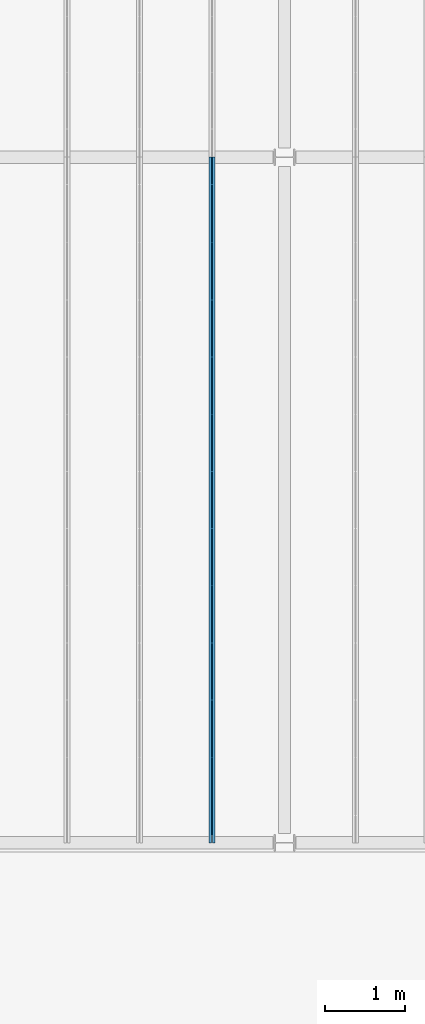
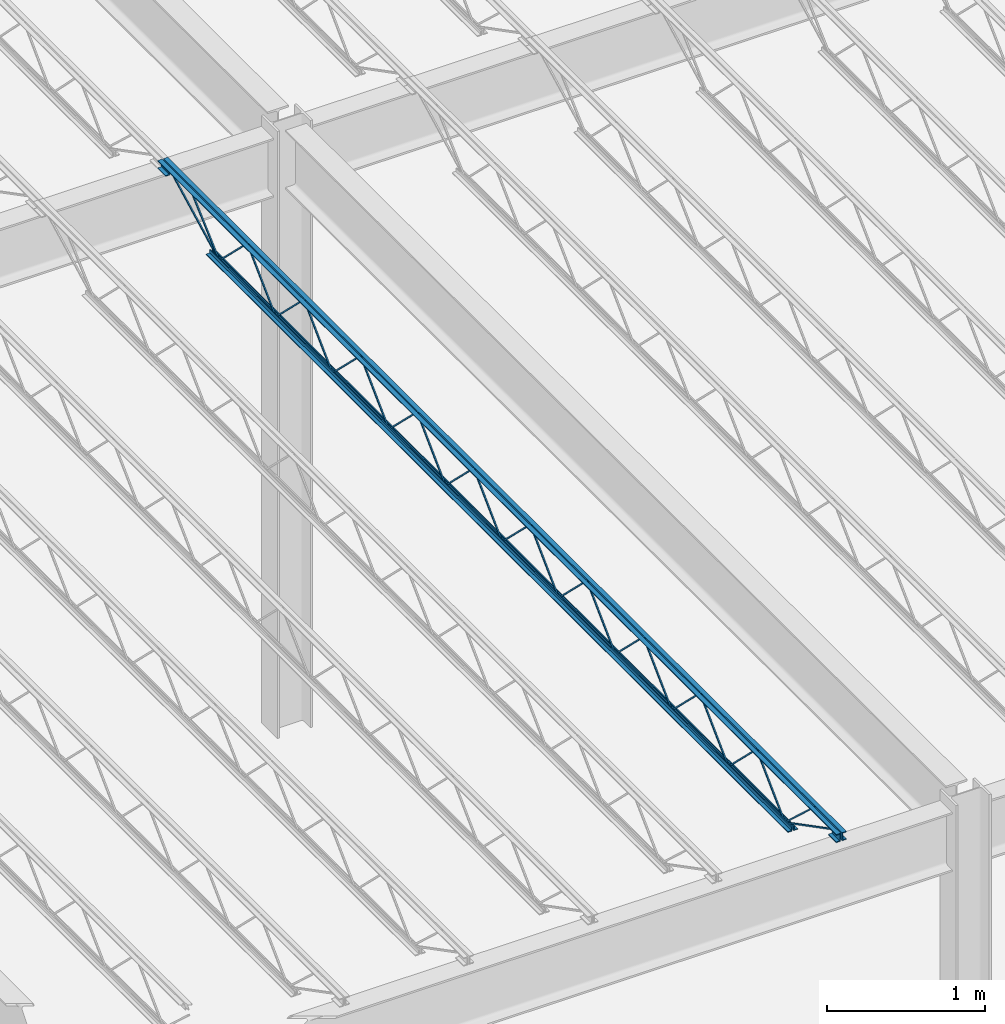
# One storey, part 25 of 119: 1 beam.
"""IFC2X3 building model written with IfcOpenShell, lengths in metres."""

from ifc_helpers import new_model, entity, si_unit, converted_unit, frame, origin, place, context, project, spatial, face_set, surface_model, element, save


model = new_model("IFC2X3")

# Units and contexts
model_context = context("Model", 3, precision=1e-09, world=origin())
plan_context = context("Plan", 3, precision=1e-09, world=origin())
ifc_project = project(units=[si_unit("LENGTHUNIT", "METRE"), si_unit("AREAUNIT", "SQUARE_METRE"), si_unit("VOLUMEUNIT", "CUBIC_METRE"), converted_unit("PLANEANGLEUNIT", "DEGREE", entity("IfcRatioMeasure", 0.01745329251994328), si_unit("PLANEANGLEUNIT", "RADIAN"), dimensions=[0, 0, 0, 0, 0, 0, 0]), si_unit("TIMEUNIT", "SECOND")], contexts=[model_context, plan_context])

# Site, building, storey
site_placement = place(None, origin())
site = spatial("IfcSite", under=ifc_project, at=site_placement, Name="Default", CompositionType="ELEMENT")
building_placement = place(site_placement, origin())
building = spatial("IfcBuilding", under=site, at=building_placement, CompositionType="ELEMENT")
storey_placement = place(building_placement, frame((0.0, 0.0, 4.570000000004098)))
storey = spatial("IfcBuildingStorey", under=building, at=storey_placement, Name="Second Floor", CompositionType="ELEMENT", Elevation=4.570000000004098)

# Beam
beam_placement = place(storey_placement, frame((-41.60246428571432, 10.04000000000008, 4.323999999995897), z_axis=(0.0, 0.0, 1.0), x_axis=(-1.0, 0.0, 0.0)))
element("IfcBeam", 1, at=beam_placement, inside=storey, Name="M_K-Series Bar Joist-Rod Web:14K1:14K1", ObjectType="M_K-Series Bar Joist-Rod Web:14K1", context=model_context, shape_type="SurfaceModel", body=[
    surface_model("IfcFaceBasedSurfaceModel", [(-0.03199999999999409, -2.141200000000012, 0.01110000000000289), (-0.04150000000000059, -2.141200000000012, 0.01110000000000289), (-0.04150000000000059, -2.141200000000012, 0.001600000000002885), (-0.03199999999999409, -2.141200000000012, 0.001600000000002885), (-0.04149999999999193, -2.139961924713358, 0.01110000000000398), (-0.03199999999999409, -2.139961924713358, 0.01110000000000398), (-0.0415000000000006, -2.136088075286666, 0.001600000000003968), (-0.04150000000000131, -1.785138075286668, 0.3449000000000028), (-0.04150000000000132, -1.782661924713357, 0.3449000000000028), (-0.04150000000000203, -1.431711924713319, 0.001600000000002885), (-0.04150000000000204, -1.426600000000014, 0.001600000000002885), (-0.04150000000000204, -1.426600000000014, 0.01110000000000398), (-0.04150000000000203, -1.427838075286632, 0.01110000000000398), (-0.04150000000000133, -1.77878807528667, 0.3544000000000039), (-0.0415000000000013, -1.78901192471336, 0.3544000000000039), (-0.03200000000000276, -2.136088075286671, 0.001600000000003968), (-0.0319999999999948, -1.785138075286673, 0.3449000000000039), (-0.03199999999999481, -1.782661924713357, 0.3449000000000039), (-0.03199999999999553, -1.431711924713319, 0.001600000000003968), (-0.03199999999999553, -1.426600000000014, 0.001600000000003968), (-0.03199999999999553, -1.426600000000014, 0.01110000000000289), (-0.03199999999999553, -1.427838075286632, 0.01110000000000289), (-0.03199999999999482, -1.77878807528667, 0.3544000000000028), (-0.0319999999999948, -1.78901192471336, 0.3544000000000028), (-0.03200000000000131, -2.855800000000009, 0.01110000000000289), (-0.04150000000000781, -2.855800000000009, 0.01110000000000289), (-0.04150000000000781, -2.855800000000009, 0.001600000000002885), (-0.03200000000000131, -2.855800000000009, 0.001600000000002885), (-0.04149999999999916, -2.854561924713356, 0.01110000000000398), (-0.03200000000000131, -2.854561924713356, 0.01110000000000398), (-0.04150000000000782, -2.850688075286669, 0.001600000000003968), (-0.04150000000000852, -2.499738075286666, 0.3449000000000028), (-0.04150000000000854, -2.49726192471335, 0.3449000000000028), (-0.04150000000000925, -2.146311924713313, 0.001600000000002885), (-0.04150000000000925, -2.141200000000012, 0.01110000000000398), (-0.04150000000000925, -2.142438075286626, 0.01110000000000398), (-0.04150000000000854, -2.493388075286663, 0.3544000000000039), (-0.04150000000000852, -2.503611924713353, 0.3544000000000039), (-0.03200000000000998, -2.850688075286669, 0.001600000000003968), (-0.03200000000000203, -2.499738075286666, 0.3449000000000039), (-0.03200000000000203, -2.49726192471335, 0.3449000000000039), (-0.03200000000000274, -2.146311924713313, 0.001600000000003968), (-0.03200000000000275, -2.141200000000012, 0.001600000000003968), (-0.03199999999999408, -2.142438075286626, 0.01110000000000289), (-0.03200000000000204, -2.493388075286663, 0.3544000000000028), (-0.03200000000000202, -2.503611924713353, 0.3544000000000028), (-0.03199999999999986, -3.570400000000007, 0.01110000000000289), (-0.04150000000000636, -3.570400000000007, 0.01110000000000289), (-0.04150000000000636, -3.570400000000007, 0.001600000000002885), (-0.03199999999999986, -3.570400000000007, 0.001600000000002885), (-0.04149999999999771, -3.569161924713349, 0.01110000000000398), (-0.03199999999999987, -3.569161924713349, 0.01110000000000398), (-0.04150000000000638, -3.565288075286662, 0.001600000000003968), (-0.04150000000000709, -3.214338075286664, 0.3449000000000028), (-0.04150000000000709, -3.211861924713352, 0.3449000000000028), (-0.0415000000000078, -2.860911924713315, 0.001600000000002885), (-0.04150000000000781, -2.855800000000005, 0.001600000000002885), (-0.04150000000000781, -2.855800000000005, 0.01110000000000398), (-0.04150000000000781, -2.857038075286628, 0.01110000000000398), (-0.04150000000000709, -3.207988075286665, 0.3544000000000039), (-0.04150000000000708, -3.218211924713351, 0.3544000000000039), (-0.03200000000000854, -3.565288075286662, 0.001600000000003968), (-0.03200000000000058, -3.214338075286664, 0.3449000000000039), (-0.03200000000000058, -3.211861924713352, 0.3449000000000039), (-0.0320000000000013, -2.860911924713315, 0.001600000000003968), (-0.03200000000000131, -2.855800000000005, 0.001600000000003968), (-0.03200000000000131, -2.855800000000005, 0.01110000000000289), (-0.03200000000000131, -2.857038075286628, 0.01110000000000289), (-0.03200000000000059, -3.207988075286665, 0.3544000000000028), (-0.03200000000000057, -3.218211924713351, 0.3544000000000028), (-0.03199999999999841, -4.285000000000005, 0.01110000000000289), (-0.04150000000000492, -4.285000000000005, 0.01110000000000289), (-0.04150000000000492, -4.285000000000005, 0.001600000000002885), (-0.03199999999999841, -4.285000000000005, 0.001600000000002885), (-0.04149999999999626, -4.283761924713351, 0.01110000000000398), (-0.03199999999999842, -4.283761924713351, 0.01110000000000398), (-0.04150000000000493, -4.27988807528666, 0.001600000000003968), (-0.04150000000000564, -3.928938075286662, 0.3449000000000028), (-0.04150000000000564, -3.926461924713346, 0.3449000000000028), (-0.04150000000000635, -3.575511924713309, 0.001600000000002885), (-0.04150000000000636, -3.570400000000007, 0.01110000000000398), (-0.04150000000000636, -3.571638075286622, 0.01110000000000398), (-0.04150000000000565, -3.922588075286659, 0.3544000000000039), (-0.04150000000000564, -3.932811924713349, 0.3544000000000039), (-0.03200000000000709, -4.279888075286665, 0.001600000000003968), (-0.03199999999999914, -3.928938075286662, 0.3449000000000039), (-0.03199999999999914, -3.926461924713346, 0.3449000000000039), (-0.03199999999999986, -3.575511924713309, 0.001600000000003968), (-0.03199999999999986, -3.570400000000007, 0.001600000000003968), (-0.03199999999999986, -3.571638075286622, 0.01110000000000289), (-0.03199999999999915, -3.922588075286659, 0.3544000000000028), (-0.03199999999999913, -3.932811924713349, 0.3544000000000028), (-0.03199999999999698, -4.999600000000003, 0.01110000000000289), (-0.04150000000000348, -4.999600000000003, 0.01110000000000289), (-0.04150000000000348, -4.999600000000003, 0.001600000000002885), (-0.03199999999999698, -4.999600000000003, 0.001600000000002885), (-0.04149999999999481, -4.998361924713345, 0.01110000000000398), (-0.03199999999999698, -4.998361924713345, 0.01110000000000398), (-0.04150000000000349, -4.994488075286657, 0.001600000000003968), (-0.04150000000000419, -4.643538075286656, 0.3449000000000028), (-0.0415000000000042, -4.641061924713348, 0.3449000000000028), (-0.04150000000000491, -4.290111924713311, 0.001600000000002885), (-0.04150000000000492, -4.285, 0.001600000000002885), (-0.04150000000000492, -4.285, 0.01110000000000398), (-0.04150000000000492, -4.28623807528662, 0.01110000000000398), (-0.04150000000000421, -4.637188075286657, 0.3544000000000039), (-0.04150000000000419, -4.647411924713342, 0.3544000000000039), (-0.03200000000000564, -4.994488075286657, 0.001600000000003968), (-0.03199999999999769, -4.643538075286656, 0.3449000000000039), (-0.0319999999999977, -4.641061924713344, 0.3449000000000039), (-0.03199999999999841, -4.290111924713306, 0.001600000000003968), (-0.03199999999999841, -4.285, 0.001600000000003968), (-0.03199999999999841, -4.285, 0.01110000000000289), (-0.03199999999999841, -4.286238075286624, 0.01110000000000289), (-0.0319999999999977, -4.637188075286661, 0.3544000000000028), (-0.03199999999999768, -4.647411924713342, 0.3544000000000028), (-0.03199999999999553, -5.714199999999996, 0.01110000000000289), (-0.04150000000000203, -5.714199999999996, 0.01110000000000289), (-0.04150000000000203, -5.714199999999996, 0.001600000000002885), (-0.03199999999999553, -5.714199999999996, 0.001600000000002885), (-0.04149999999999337, -5.712961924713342, 0.01110000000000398), (-0.03199999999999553, -5.712961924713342, 0.01110000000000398), (-0.04150000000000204, -5.709088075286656, 0.001600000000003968), (-0.04150000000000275, -5.358138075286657, 0.3449000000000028), (-0.04150000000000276, -5.355661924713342, 0.3449000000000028), (-0.04150000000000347, -5.004711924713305, 0.001600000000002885), (-0.04150000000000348, -4.999599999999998, 0.01110000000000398), (-0.04150000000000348, -5.000838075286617, 0.01110000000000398), (-0.04150000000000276, -5.351788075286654, 0.3544000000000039), (-0.04150000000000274, -5.362011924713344, 0.3544000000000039), (-0.0320000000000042, -5.709088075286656, 0.001600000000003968), (-0.03199999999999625, -5.358138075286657, 0.3449000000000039), (-0.03199999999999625, -5.355661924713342, 0.3449000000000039), (-0.03199999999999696, -5.004711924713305, 0.001600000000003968), (-0.03199999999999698, -4.999599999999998, 0.001600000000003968), (-0.03199999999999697, -5.000838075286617, 0.01110000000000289), (-0.03199999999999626, -5.351788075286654, 0.3544000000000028), (-0.03199999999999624, -5.362011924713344, 0.3544000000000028), (-0.03200000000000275, -6.428799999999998, 0.01110000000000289), (-0.04150000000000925, -6.428799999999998, 0.01110000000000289), (-0.04150000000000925, -6.428799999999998, 0.001600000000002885), (-0.03200000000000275, -6.428799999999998, 0.001600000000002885), (-0.04150000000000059, -6.42756192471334, 0.01110000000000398), (-0.03200000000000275, -6.42756192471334, 0.01110000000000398), (-0.0415000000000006, -6.423688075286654, 0.001600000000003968), (-0.0415000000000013, -6.072738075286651, 0.3449000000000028), (-0.04150000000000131, -6.070261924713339, 0.3449000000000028), (-0.04150000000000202, -5.719311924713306, 0.001600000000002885), (-0.0415000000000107, -5.714199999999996, 0.01110000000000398), (-0.0415000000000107, -5.715438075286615, 0.01110000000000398), (-0.04150000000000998, -6.066388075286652, 0.3544000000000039), (-0.04150000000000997, -6.076611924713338, 0.3544000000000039), (-0.03200000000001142, -6.423688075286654, 0.001600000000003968), (-0.03200000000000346, -6.072738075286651, 0.3449000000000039), (-0.03200000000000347, -6.070261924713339, 0.3449000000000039), (-0.03200000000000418, -5.719311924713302, 0.001600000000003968), (-0.03200000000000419, -5.714199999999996, 0.001600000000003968), (-0.03199999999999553, -5.715438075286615, 0.01110000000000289), (-0.03199999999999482, -6.066388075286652, 0.3544000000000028), (-0.0319999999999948, -6.076611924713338, 0.3544000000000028), (-0.0320000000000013, -7.143399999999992, 0.01110000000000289), (-0.04150000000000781, -7.143399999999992, 0.01110000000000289), (-0.04150000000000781, -7.143399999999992, 0.001600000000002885), (-0.0320000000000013, -7.143399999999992, 0.001600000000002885), (-0.04149999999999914, -7.142161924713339, 0.01110000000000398), (-0.03200000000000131, -7.142161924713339, 0.01110000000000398), (-0.04150000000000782, -7.138288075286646, 0.001600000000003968), (-0.04150000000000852, -6.787338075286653, 0.3449000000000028), (-0.04150000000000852, -6.784861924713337, 0.3449000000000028), (-0.04150000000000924, -6.4339119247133, 0.001600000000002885), (-0.04150000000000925, -6.428799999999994, 0.001600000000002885), (-0.04150000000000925, -6.428799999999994, 0.01110000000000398), (-0.04150000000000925, -6.430038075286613, 0.01110000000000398), (-0.04150000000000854, -6.780988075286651, 0.3544000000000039), (-0.04150000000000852, -6.79121192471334, 0.3544000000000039), (-0.03200000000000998, -7.138288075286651, 0.001600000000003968), (-0.03200000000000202, -6.787338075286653, 0.3449000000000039), (-0.03200000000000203, -6.784861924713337, 0.3449000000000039), (-0.03200000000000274, -6.4339119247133, 0.001600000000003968), (-0.03200000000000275, -6.428799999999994, 0.001600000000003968), (-0.03200000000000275, -6.428799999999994, 0.01110000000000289), (-0.03200000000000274, -6.430038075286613, 0.01110000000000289), (-0.03200000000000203, -6.780988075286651, 0.3544000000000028), (-0.03200000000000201, -6.79121192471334, 0.3544000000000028), (-0.03199999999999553, -1.426600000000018, 0.01109999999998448), (-0.04150000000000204, -1.426600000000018, 0.01109999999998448), (-0.04150000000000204, -1.426600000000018, 0.001599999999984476), (-0.03199999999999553, -1.426600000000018, 0.001599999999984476), (-0.04149999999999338, -1.42536192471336, 0.01109999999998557), (-0.03199999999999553, -1.42536192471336, 0.01109999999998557), (-0.04149999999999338, -1.421488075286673, 0.001599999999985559), (-0.0414999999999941, -1.07053807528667, 0.3448999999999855), (-0.0414999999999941, -1.068061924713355, 0.3448999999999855), (-0.04149999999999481, -0.7171119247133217, 0.001599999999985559), (-0.04150000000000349, -0.7120000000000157, 0.001599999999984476), (-0.04149999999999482, -0.7120000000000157, 0.01109999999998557), (-0.04149999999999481, -0.7132380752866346, 0.01109999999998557), (-0.0414999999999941, -1.064188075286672, 0.3543999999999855), (-0.04149999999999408, -1.074411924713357, 0.3543999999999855), (-0.03199999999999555, -1.421488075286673, 0.001599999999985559), (-0.03199999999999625, -1.07053807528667, 0.3448999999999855), (-0.03199999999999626, -1.068061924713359, 0.3448999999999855), (-0.03199999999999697, -0.7171119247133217, 0.001599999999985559), (-0.03199999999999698, -0.7120000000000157, 0.001599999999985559), (-0.03199999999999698, -0.7120000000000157, 0.01109999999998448), (-0.03199999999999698, -0.7132380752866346, 0.01109999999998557), (-0.03199999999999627, -1.064188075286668, 0.3543999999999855), (-0.03199999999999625, -1.074411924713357, 0.3543999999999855), (-0.03199999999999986, -7.857999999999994, 0.01110000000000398), (-0.04150000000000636, -7.857999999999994, 0.01110000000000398), (-0.04150000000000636, -7.857999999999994, 0.001600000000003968), (-0.03199999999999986, -7.857999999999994, 0.001600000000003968), (-0.0414999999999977, -7.856761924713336, 0.01110000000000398), (-0.03199999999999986, -7.856761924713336, 0.01110000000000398), (-0.04150000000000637, -7.852888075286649, 0.001600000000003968), (-0.04150000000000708, -7.501938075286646, 0.3449000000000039), (-0.04150000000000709, -7.499461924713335, 0.3449000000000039), (-0.04150000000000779, -7.148511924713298, 0.001600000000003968), (-0.04150000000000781, -7.143399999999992, 0.001600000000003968), (-0.04150000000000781, -7.143399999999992, 0.01110000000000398), (-0.0415000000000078, -7.14463807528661, 0.01110000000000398), (-0.04150000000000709, -7.495588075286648, 0.3544000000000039), (-0.04150000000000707, -7.505811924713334, 0.3544000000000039), (-0.03200000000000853, -7.852888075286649, 0.001600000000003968), (-0.03200000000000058, -7.501938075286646, 0.3449000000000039), (-0.03200000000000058, -7.499461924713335, 0.3449000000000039), (-0.03200000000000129, -7.148511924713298, 0.001600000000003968), (-0.0320000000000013, -7.143399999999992, 0.001600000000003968), (-0.0320000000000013, -7.143399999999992, 0.01110000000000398), (-0.0320000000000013, -7.14463807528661, 0.01110000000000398), (-0.03200000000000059, -7.495588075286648, 0.3544000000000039), (-0.03200000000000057, -7.505811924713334, 0.3544000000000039), (-0.04150000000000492, 0.0, 0.3559999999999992), (-0.07350000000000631, 0.0, 0.3559999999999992), (-0.07350000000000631, 0.0, 0.3494999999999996), (-0.04800000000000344, 0.0, 0.3494999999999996), (-0.04800000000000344, 0.0, 0.3239999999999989), (-0.04150000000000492, 0.0, 0.3239999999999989), (-0.03200000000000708, 0.0, 0.3559999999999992), (-0.03200000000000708, 0.0, 0.3239999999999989), (-0.02550000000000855, 0.0, 0.3239999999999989), (-0.02550000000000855, 0.0, 0.3494999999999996), (0.0, 0.0, 0.3494999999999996), (0.0, 0.0, 0.3559999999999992), (-0.04150000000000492, -8.569999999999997, 0.3559999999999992), (-0.07350000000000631, -8.569999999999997, 0.3559999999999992), (-0.07350000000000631, -8.569999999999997, 0.3494999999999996), (-0.04800000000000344, -8.569999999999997, 0.3494999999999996), (-0.04800000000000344, -8.569999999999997, 0.3239999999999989), (-0.04150000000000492, -8.569999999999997, 0.3239999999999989), (-0.03200000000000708, -8.569999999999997, 0.3559999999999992), (-0.03200000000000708, -8.569999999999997, 0.3239999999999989), (-0.02550000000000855, -8.569999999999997, 0.3239999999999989), (-0.02550000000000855, -8.569999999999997, 0.3494999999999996), (0.0, -8.569999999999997, 0.3494999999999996), (0.0, -8.569999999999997, 0.3559999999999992), (-0.03199999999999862, -8.470000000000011, 0.2924999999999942), (0.0, -8.470000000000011, 0.2924999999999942), (0.0, -8.470000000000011, 0.2989999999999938), (-0.0255000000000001, -8.470000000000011, 0.2989999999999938), (-0.0255000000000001, -8.470000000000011, 0.3239999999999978), (-0.03199999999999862, -8.470000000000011, 0.3239999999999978), (-0.07349999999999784, -8.470000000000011, 0.2924999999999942), (-0.04149999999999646, -8.470000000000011, 0.2924999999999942), (-0.04149999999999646, -8.470000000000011, 0.3239999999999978), (-0.04799999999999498, -8.470000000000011, 0.3239999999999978), (-0.04799999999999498, -8.470000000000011, 0.2989999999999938), (-0.07349999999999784, -8.470000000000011, 0.2989999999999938), (-0.03199999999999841, -8.569999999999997, 0.2924999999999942), (0.0, -8.569999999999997, 0.2924999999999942), (0.0, -8.569999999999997, 0.2989999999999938), (-0.02549999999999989, -8.569999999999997, 0.2989999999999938), (-0.02549999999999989, -8.569999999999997, 0.3239999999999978), (-0.03199999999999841, -8.569999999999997, 0.3239999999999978), (-0.07349999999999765, -8.569999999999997, 0.2924999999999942), (-0.04149999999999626, -8.569999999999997, 0.2924999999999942), (-0.04149999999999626, -8.569999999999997, 0.3239999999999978), (-0.04799999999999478, -8.569999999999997, 0.3239999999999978), (-0.04799999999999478, -8.569999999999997, 0.2989999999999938), (-0.07349999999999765, -8.569999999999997, 0.2989999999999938), (-0.04149999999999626, 0.0, 0.2924999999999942), (-0.04149999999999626, 0.0, 0.3239999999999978), (-0.04799999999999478, 0.0, 0.3239999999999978), (-0.04799999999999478, 0.0, 0.2989999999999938), (-0.07349999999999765, 0.0, 0.2989999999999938), (-0.07349999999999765, 0.0, 0.2924999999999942), (-0.03199999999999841, 0.0, 0.2924999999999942), (0.0, 0.0, 0.2924999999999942), (0.0, 0.0, 0.2989999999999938), (-0.02549999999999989, 0.0, 0.2989999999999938), (-0.02549999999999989, 0.0, 0.3239999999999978), (-0.03199999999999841, 0.0, 0.3239999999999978), (-0.04149999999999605, -0.09999999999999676, 0.2924999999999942), (-0.04149999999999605, -0.09999999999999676, 0.3239999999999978), (-0.04799999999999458, -0.09999999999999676, 0.3239999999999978), (-0.04799999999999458, -0.09999999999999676, 0.2989999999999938), (-0.07349999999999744, -0.09999999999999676, 0.2989999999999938), (-0.07349999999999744, -0.09999999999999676, 0.2924999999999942), (-0.03199999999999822, -0.09999999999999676, 0.2924999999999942), (0.0, -0.09999999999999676, 0.2924999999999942), (0.0, -0.09999999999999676, 0.2989999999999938), (-0.02549999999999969, -0.09999999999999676, 0.2989999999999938), (-0.02549999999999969, -0.09999999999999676, 0.3239999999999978), (-0.03199999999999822, -0.09999999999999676, 0.3239999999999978), (-0.04150000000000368, -0.6119999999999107, 0.0), (-0.04150000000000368, -0.6119999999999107, 0.03199999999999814), (-0.0480000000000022, -0.6119999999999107, 0.03199999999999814), (-0.0480000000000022, -0.6119999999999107, 0.006499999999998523), (-0.07350000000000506, -0.6119999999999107, 0.006499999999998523), (-0.07350000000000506, -0.6119999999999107, 0.0), (-0.03200000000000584, -0.6119999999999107, 0.0), (0.0, -0.6119999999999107, 0.0), (0.0, -0.6119999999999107, 0.006499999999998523), (-0.02550000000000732, -0.6119999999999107, 0.006499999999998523), (-0.02550000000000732, -0.6119999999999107, 0.03199999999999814), (-0.03200000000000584, -0.6119999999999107, 0.03199999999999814), (-0.04150000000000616, -7.95799999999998, 0.0), (-0.04150000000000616, -7.95799999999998, 0.03199999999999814), (-0.04800000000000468, -7.95799999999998, 0.03199999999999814), (-0.04800000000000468, -7.95799999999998, 0.006499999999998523), (-0.07350000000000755, -7.95799999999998, 0.006499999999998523), (-0.07350000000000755, -7.95799999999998, 0.0), (-0.03200000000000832, -7.95799999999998, 0.0), (0.0, -7.95799999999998, 0.0), (0.0, -7.95799999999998, 0.006499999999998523), (-0.0255000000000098, -7.95799999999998, 0.006499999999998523), (-0.0255000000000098, -7.95799999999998, 0.03199999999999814), (-0.03200000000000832, -7.95799999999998, 0.03199999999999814), (-0.03199999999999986, -7.855811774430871, 0.01056594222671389), (-0.04150000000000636, -7.855811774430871, 0.01056594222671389), (-0.04150000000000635, -7.860188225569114, 0.002134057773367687), (-0.03199999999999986, -7.860188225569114, 0.00213405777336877), (-0.03199999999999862, -8.468840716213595, 0.3287499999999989), (-0.03199999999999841, -8.569999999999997, 0.3287499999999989), (-0.03199999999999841, -8.569999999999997, 0.3192499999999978), (-0.03199999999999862, -8.471159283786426, 0.3192499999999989), (-0.04149999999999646, -8.471159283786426, 0.3192499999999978), (-0.04150000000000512, -8.468840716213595, 0.3287499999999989), (-0.04150000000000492, -8.569999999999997, 0.3287499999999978), (-0.04150000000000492, -8.569999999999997, 0.3192499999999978), (-0.03199999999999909, -8.235257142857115, 0.3417000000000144), (-0.0415000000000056, -8.235257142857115, 0.3417000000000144), (-0.0415000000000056, -8.235257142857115, 0.3322000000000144), (-0.03199999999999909, -8.235257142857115, 0.3322000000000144), (-0.04149999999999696, -8.22072410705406, 0.3417000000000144), (-0.03199999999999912, -8.22072410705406, 0.3417000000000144), (-0.04150000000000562, -8.224390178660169, 0.3322000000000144), (-0.04150000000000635, -7.861190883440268, 0.002831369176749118), (-0.04150000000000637, -7.854809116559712, 0.009868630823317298), (-0.03200000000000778, -8.224390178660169, 0.3322000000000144), (-0.03199999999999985, -7.861190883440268, 0.002831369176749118), (-0.03199999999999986, -7.854809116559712, 0.009868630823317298), (-0.03199999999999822, -0.0978117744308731, 0.3197840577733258), (-0.03199999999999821, -0.1021882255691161, 0.328215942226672), (-0.04150000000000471, -0.1021882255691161, 0.328215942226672), (-0.04150000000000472, -0.0978117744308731, 0.3197840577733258), (-0.03199999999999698, -0.7098117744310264, 0.002134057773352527), (-0.03199999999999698, -0.7141882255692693, 0.01056594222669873), (-0.04150000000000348, -0.7141882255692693, 0.01056594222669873), (-0.04150000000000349, -0.7098117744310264, 0.002134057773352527), (-0.03199999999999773, -0.3369634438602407, 0.3461600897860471), (-0.03199999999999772, -0.3434079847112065, 0.3531399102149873), (-0.04150000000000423, -0.3434079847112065, 0.3531399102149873), (-0.04150000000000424, -0.3369634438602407, 0.3461600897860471), (-0.03199999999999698, -0.7087777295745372, 0.00286008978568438), (-0.03199999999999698, -0.7152222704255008, 0.009839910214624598), (-0.04150000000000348, -0.7152222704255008, 0.009839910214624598), (-0.04150000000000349, -0.7087777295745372, 0.00286008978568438)], [face_set([[[0, 1, 2, 3]], [[1, 4, 5, 0]], [[2, 6, 7, 8, 9, 10, 11, 12, 13, 14, 4, 1]], [[3, 2, 6, 15]], [[0, 3, 15, 16, 17, 18, 19, 20, 21, 22, 23, 5]], [[4, 5, 23, 14]], [[15, 16, 7, 6]], [[14, 13, 22, 23]], [[16, 7, 8, 17]], [[13, 12, 21, 22]], [[17, 8, 9, 18]], [[20, 11, 10, 19]], [[12, 11, 20, 21]], [[18, 9, 10, 19]]]), face_set([[[24, 25, 26, 27]], [[25, 28, 29, 24]], [[26, 30, 31, 32, 33, 2, 34, 35, 36, 37, 28, 25]], [[27, 26, 30, 38]], [[24, 27, 38, 39, 40, 41, 42, 0, 43, 44, 45, 29]], [[28, 29, 45, 37]], [[38, 39, 31, 30]], [[37, 36, 44, 45]], [[39, 31, 32, 40]], [[36, 35, 43, 44]], [[40, 32, 33, 41]], [[0, 34, 2, 42]], [[35, 34, 0, 43]], [[41, 33, 2, 42]]]), face_set([[[46, 47, 48, 49]], [[47, 50, 51, 46]], [[48, 52, 53, 54, 55, 56, 57, 58, 59, 60, 50, 47]], [[49, 48, 52, 61]], [[46, 49, 61, 62, 63, 64, 65, 66, 67, 68, 69, 51]], [[50, 51, 69, 60]], [[61, 62, 53, 52]], [[60, 59, 68, 69]], [[62, 53, 54, 63]], [[59, 58, 67, 68]], [[63, 54, 55, 64]], [[66, 57, 56, 65]], [[58, 57, 66, 67]], [[64, 55, 56, 65]]]), face_set([[[70, 71, 72, 73]], [[71, 74, 75, 70]], [[72, 76, 77, 78, 79, 48, 80, 81, 82, 83, 74, 71]], [[73, 72, 76, 84]], [[70, 73, 84, 85, 86, 87, 88, 46, 89, 90, 91, 75]], [[74, 75, 91, 83]], [[84, 85, 77, 76]], [[83, 82, 90, 91]], [[85, 77, 78, 86]], [[82, 81, 89, 90]], [[86, 78, 79, 87]], [[46, 80, 48, 88]], [[81, 80, 46, 89]], [[87, 79, 48, 88]]]), face_set([[[92, 93, 94, 95]], [[93, 96, 97, 92]], [[94, 98, 99, 100, 101, 102, 103, 104, 105, 106, 96, 93]], [[95, 94, 98, 107]], [[92, 95, 107, 108, 109, 110, 111, 112, 113, 114, 115, 97]], [[96, 97, 115, 106]], [[107, 108, 99, 98]], [[106, 105, 114, 115]], [[108, 99, 100, 109]], [[105, 104, 113, 114]], [[109, 100, 101, 110]], [[112, 103, 102, 111]], [[104, 103, 112, 113]], [[110, 101, 102, 111]]]), face_set([[[116, 117, 118, 119]], [[117, 120, 121, 116]], [[118, 122, 123, 124, 125, 94, 126, 127, 128, 129, 120, 117]], [[119, 118, 122, 130]], [[116, 119, 130, 131, 132, 133, 134, 92, 135, 136, 137, 121]], [[120, 121, 137, 129]], [[130, 131, 123, 122]], [[129, 128, 136, 137]], [[131, 123, 124, 132]], [[128, 127, 135, 136]], [[132, 124, 125, 133]], [[92, 126, 94, 134]], [[127, 126, 92, 135]], [[133, 125, 94, 134]]]), face_set([[[138, 139, 140, 141]], [[139, 142, 143, 138]], [[140, 144, 145, 146, 147, 118, 148, 149, 150, 151, 142, 139]], [[141, 140, 144, 152]], [[138, 141, 152, 153, 154, 155, 156, 116, 157, 158, 159, 143]], [[142, 143, 159, 151]], [[152, 153, 145, 144]], [[151, 150, 158, 159]], [[153, 145, 146, 154]], [[150, 149, 157, 158]], [[154, 146, 147, 155]], [[116, 148, 118, 156]], [[149, 148, 116, 157]], [[155, 147, 118, 156]]]), face_set([[[160, 161, 162, 163]], [[161, 164, 165, 160]], [[162, 166, 167, 168, 169, 170, 171, 172, 173, 174, 164, 161]], [[163, 162, 166, 175]], [[160, 163, 175, 176, 177, 178, 179, 180, 181, 182, 183, 165]], [[164, 165, 183, 174]], [[175, 176, 167, 166]], [[174, 173, 182, 183]], [[176, 167, 168, 177]], [[173, 172, 181, 182]], [[177, 168, 169, 178]], [[180, 171, 170, 179]], [[172, 171, 180, 181]], [[178, 169, 170, 179]]]), face_set([[[184, 185, 186, 187]], [[185, 188, 189, 184]], [[186, 190, 191, 192, 193, 194, 195, 196, 197, 198, 188, 185]], [[187, 186, 190, 199]], [[184, 187, 199, 200, 201, 202, 203, 204, 205, 206, 207, 189]], [[188, 189, 207, 198]], [[199, 200, 191, 190]], [[198, 197, 206, 207]], [[200, 191, 192, 201]], [[197, 196, 205, 206]], [[201, 192, 193, 202]], [[204, 195, 194, 203]], [[196, 195, 204, 205]], [[202, 193, 194, 203]]]), face_set([[[208, 209, 210, 211]], [[209, 212, 213, 208]], [[210, 214, 215, 216, 217, 218, 219, 220, 221, 222, 212, 209]], [[211, 210, 214, 223]], [[208, 211, 223, 224, 225, 226, 227, 228, 229, 230, 231, 213]], [[212, 213, 231, 222]], [[223, 224, 215, 214]], [[222, 221, 230, 231]], [[224, 215, 216, 225]], [[221, 220, 229, 230]], [[225, 216, 217, 226]], [[228, 219, 218, 227]], [[220, 219, 228, 229]], [[226, 217, 218, 227]]]), face_set([[[232, 233, 234, 235, 236, 237]], [[238, 239, 240, 241, 242, 243]], [[244, 245, 246, 247, 248, 249]], [[250, 251, 252, 253, 254, 255]], [[237, 232, 244, 249]], [[236, 237, 249, 248]], [[235, 247, 248, 236]], [[234, 235, 247, 246]], [[233, 245, 246, 234]], [[232, 244, 245, 233]], [[243, 255, 250, 238]], [[242, 243, 255, 254]], [[241, 242, 254, 253]], [[240, 241, 253, 252]], [[239, 240, 252, 251]], [[238, 250, 251, 239]]]), face_set([[[256, 257, 258, 259, 260, 261]], [[262, 263, 264, 265, 266, 267]], [[268, 269, 270, 271, 272, 273]], [[274, 275, 276, 277, 278, 279]], [[261, 273, 268, 256]], [[260, 272, 273, 261]], [[259, 260, 272, 271]], [[258, 270, 271, 259]], [[257, 258, 270, 269]], [[256, 257, 269, 268]], [[267, 279, 274, 262]], [[266, 278, 279, 267]], [[265, 277, 278, 266]], [[264, 276, 277, 265]], [[263, 264, 276, 275]], [[262, 263, 275, 274]]]), face_set([[[280, 281, 282, 283, 284, 285]], [[286, 287, 288, 289, 290, 291]], [[292, 293, 294, 295, 296, 297]], [[298, 299, 300, 301, 302, 303]], [[285, 280, 292, 297]], [[284, 296, 297, 285]], [[283, 295, 296, 284]], [[282, 294, 295, 283]], [[281, 293, 294, 282]], [[280, 281, 293, 292]], [[291, 303, 298, 286]], [[290, 302, 303, 291]], [[289, 290, 302, 301]], [[288, 300, 301, 289]], [[287, 288, 300, 299]], [[286, 287, 299, 298]]]), face_set([[[304, 305, 306, 307, 308, 309]], [[310, 311, 312, 313, 314, 315]], [[316, 317, 318, 319, 320, 321]], [[322, 323, 324, 325, 326, 327]], [[309, 304, 316, 321]], [[308, 320, 321, 309]], [[307, 319, 320, 308]], [[306, 318, 319, 307]], [[305, 317, 318, 306]], [[304, 305, 317, 316]], [[315, 327, 322, 310]], [[314, 326, 327, 315]], [[313, 314, 326, 325]], [[312, 324, 325, 313]], [[311, 312, 324, 323]], [[310, 311, 323, 322]]]), face_set([[[328, 329, 330, 331]], [[331, 328, 332, 333, 334, 335]], [[330, 331, 335, 336]], [[329, 337, 338, 339, 336, 330]], [[328, 332, 337, 329]], [[333, 338, 339, 334]], [[336, 335, 334, 339]], [[332, 333, 338, 337]]]), face_set([[[340, 341, 342, 343]], [[341, 344, 345, 340]], [[342, 346, 347, 348, 344, 341]], [[343, 342, 346, 349]], [[340, 343, 349, 350, 351, 345]], [[351, 348, 347, 350]], [[344, 348, 351, 345]], [[349, 346, 347, 350]]]), face_set([[[352, 353, 354, 355]], [[356, 357, 358, 359]], [[355, 352, 356, 359]], [[354, 358, 359, 355]], [[353, 357, 358, 354]], [[352, 353, 357, 356]]]), face_set([[[360, 361, 362, 363]], [[364, 365, 366, 367]], [[363, 367, 364, 360]], [[362, 366, 367, 363]], [[361, 362, 366, 365]], [[360, 361, 365, 364]]])]),
])

save(model, "model.ifc")
